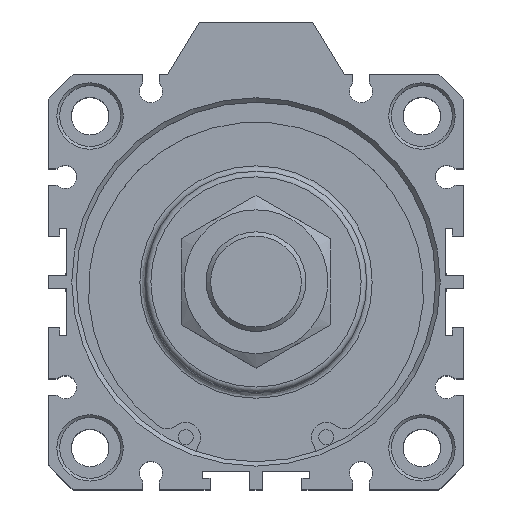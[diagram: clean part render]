
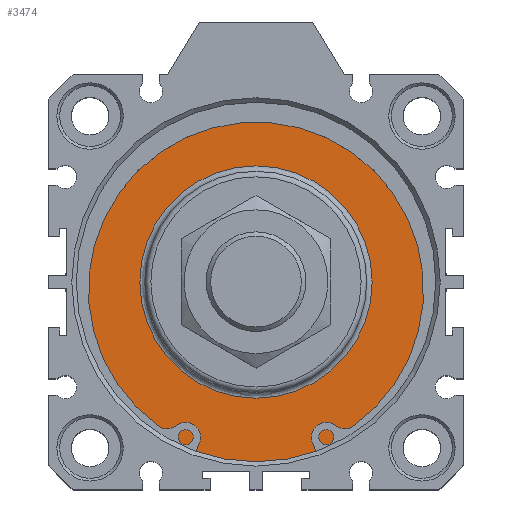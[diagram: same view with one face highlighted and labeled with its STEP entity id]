
A CAD part, top view. The second image highlights one B-rep face of the part: STEP entity #3474.
In plain terms, the highlighted planar face has unit normal (0, 0, 1).
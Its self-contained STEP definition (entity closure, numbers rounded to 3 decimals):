
#3423=CARTESIAN_POINT('',(2.99,22.555,57.3));
#3424=VERTEX_POINT('',#3423);
#3425=CARTESIAN_POINT('',(2.99,1.555,57.3));
#3426=DIRECTION('',(0.0,0.0,1.0));
#3427=DIRECTION('',(0.0,-1.0,0.0));
#3428=AXIS2_PLACEMENT_3D('',#3425,#3426,#3427);
#3429=CIRCLE('',#3428,21.0);
#3430=EDGE_CURVE('',#3424,#3424,#3429,.T.);
#3455=CARTESIAN_POINT('',(2.99,27.805,57.3));
#3456=DIRECTION('',(0.0,0.0,1.0));
#3457=DIRECTION('',(1.0,0.0,0.0));
#3458=AXIS2_PLACEMENT_3D('',#3455,#3456,#3457);
#3459=PLANE('',#3458);
#3460=CARTESIAN_POINT('',(2.99,34.055,57.3));
#3461=VERTEX_POINT('',#3460);
#3462=CARTESIAN_POINT('',(2.99,1.555,57.3));
#3463=DIRECTION('',(0.0,0.0,-1.0));
#3464=DIRECTION('',(0.0,1.0,0.0));
#3465=AXIS2_PLACEMENT_3D('',#3462,#3463,#3464);
#3466=CIRCLE('',#3465,32.5);
#3467=EDGE_CURVE('',#3461,#3461,#3466,.T.);
#3468=ORIENTED_EDGE('',*,*,#3467,.F.);
#3469=EDGE_LOOP('',(#3468));
#3470=FACE_OUTER_BOUND('',#3469,.T.);
#3471=ORIENTED_EDGE('',*,*,#3430,.F.);
#3472=EDGE_LOOP('',(#3471));
#3473=FACE_BOUND('',#3472,.T.);
#3474=ADVANCED_FACE('',(#3470,#3473),#3459,.T.);
